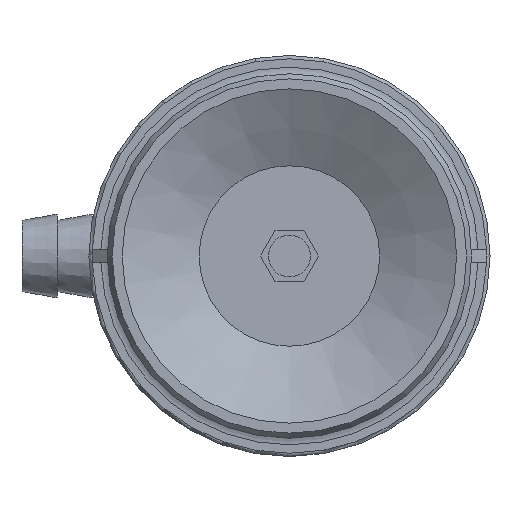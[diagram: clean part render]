
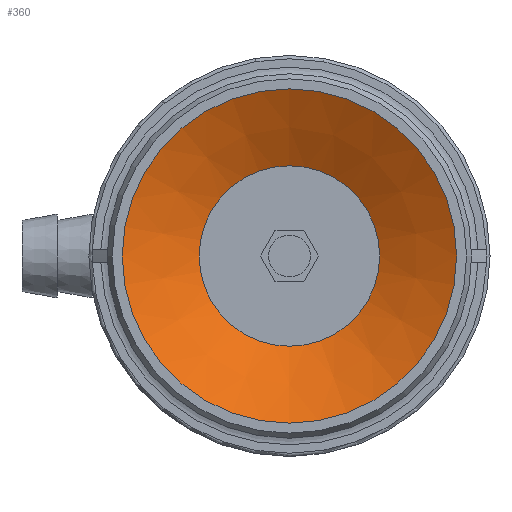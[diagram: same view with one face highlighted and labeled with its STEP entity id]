
A CAD part, front view. The second image highlights one B-rep face of the part: STEP entity #360.
In plain terms, the highlighted conical face has half-angle 61.631 degrees and reference radius 5.4 mm.
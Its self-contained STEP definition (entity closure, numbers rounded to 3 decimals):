
#360=ADVANCED_FACE('',(#590,#591),#592,.F.);
#590=FACE_BOUND('',#827,.T.);
#591=FACE_OUTER_BOUND('',#828,.T.);
#592=CONICAL_SURFACE('',#829,5.4,1.076);
#827=EDGE_LOOP('',(#1451));
#828=EDGE_LOOP('',(#1452));
#829=AXIS2_PLACEMENT_3D('',#1453,#1454,#1455);
#1451=ORIENTED_EDGE('',*,*,#1643,.F.);
#1452=ORIENTED_EDGE('',*,*,#1644,.T.);
#1453=CARTESIAN_POINT('',(0.0,2.484,0.0));
#1454=DIRECTION('',(-0.0,-1.0,0.));
#1455=DIRECTION('',(0.0,0.,-1.0));
#1643=EDGE_CURVE('',#1937,#1937,#1938,.T.);
#1644=EDGE_CURVE('',#1939,#1939,#1940,.T.);
#1937=VERTEX_POINT('',#2460);
#1938=CIRCLE('',#2461,5.4);
#1939=VERTEX_POINT('',#2462);
#1940=CIRCLE('',#2463,10.0);
#2460=CARTESIAN_POINT('',(0.0,2.484,-5.4));
#2461=AXIS2_PLACEMENT_3D('',#2748,#2749,#2750);
#2462=CARTESIAN_POINT('',(0.0,0.,-10.0));
#2463=AXIS2_PLACEMENT_3D('',#2751,#2752,#2753);
#2748=CARTESIAN_POINT('',(0.0,2.484,0.0));
#2749=DIRECTION('',(0.0,-1.0,0.));
#2750=DIRECTION('',(0.0,0.,-1.0));
#2751=CARTESIAN_POINT('',(0.0,0.0,0.0));
#2752=DIRECTION('',(0.0,-1.0,0.));
#2753=DIRECTION('',(0.0,0.,-1.0));
